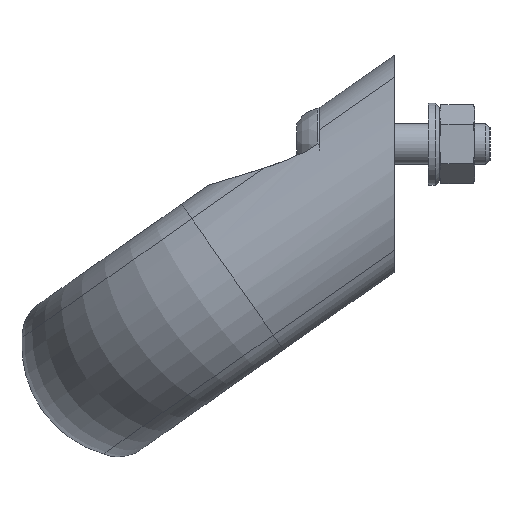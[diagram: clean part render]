
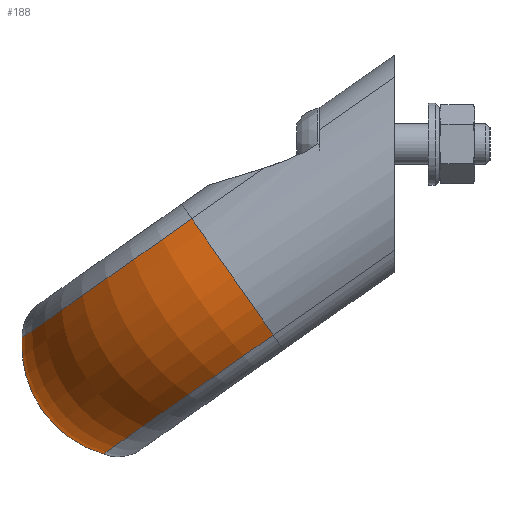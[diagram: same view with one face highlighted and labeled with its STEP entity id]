
A CAD part, left-side view. The second image highlights one B-rep face of the part: STEP entity #188.
In plain terms, the highlighted toroidal (fillet/blend) face has major radius 17.484 mm and minor radius 16.516 mm.
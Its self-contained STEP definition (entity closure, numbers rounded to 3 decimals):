
#188 = ADVANCED_FACE( '', ( #290 ), #291, .T. );
#290 = FACE_OUTER_BOUND( '', #501, .T. );
#291 = TOROIDAL_SURFACE( '', #502, 17.484, 16.516 );
#501 = EDGE_LOOP( '', ( #820, #821, #822, #823 ) );
#502 = AXIS2_PLACEMENT_3D( '', #824, #825, #826 );
#820 = ORIENTED_EDGE( '', *, *, #1421, .T. );
#821 = ORIENTED_EDGE( '', *, *, #1422, .F. );
#822 = ORIENTED_EDGE( '', *, *, #1423, .F. );
#823 = ORIENTED_EDGE( '', *, *, #1424, .T. );
#824 = CARTESIAN_POINT( '', ( -38.5, 23.653, -14.432 ) );
#825 = DIRECTION( '', ( 0., -0.574, -0.819 ) );
#826 = DIRECTION( '', ( 0., 0.819, -0.574 ) );
#1421 = EDGE_CURVE( '', #1624, #1625, #1626, .T. );
#1422 = EDGE_CURVE( '', #1627, #1625, #1628, .T. );
#1423 = EDGE_CURVE( '', #1629, #1627, #1630, .T. );
#1424 = EDGE_CURVE( '', #1629, #1624, #1631, .T. );
#1624 = VERTEX_POINT( '', #2032 );
#1625 = VERTEX_POINT( '', #2033 );
#1626 = CIRCLE( '', #2034, 30.334 );
#1627 = VERTEX_POINT( '', #2035 );
#1628 = CIRCLE( '', #2036, 16.516 );
#1629 = VERTEX_POINT( '', #2037 );
#1630 = CIRCLE( '', #2038, 30.334 );
#1631 = CIRCLE( '', #2039, 16.516 );
#2032 = CARTESIAN_POINT( '', ( -68.834, 29.605, -5.933 ) );
#2033 = CARTESIAN_POINT( '', ( -38.5, 54.453, -23.332 ) );
#2034 = AXIS2_PLACEMENT_3D( '', #2456, #2457, #2458 );
#2035 = CARTESIAN_POINT( '', ( -38.5, 42.55, -40.33 ) );
#2036 = AXIS2_PLACEMENT_3D( '', #2459, #2460, #2461 );
#2037 = CARTESIAN_POINT( '', ( -68.834, 17.702, -22.932 ) );
#2038 = AXIS2_PLACEMENT_3D( '', #2462, #2463, #2464 );
#2039 = AXIS2_PLACEMENT_3D( '', #2465, #2466, #2467 );
#2456 = CARTESIAN_POINT( '', ( -38.5, 29.605, -5.933 ) );
#2457 = DIRECTION( '', ( 0., -0.574, -0.819 ) );
#2458 = DIRECTION( '', ( 0., 0.819, -0.574 ) );
#2459 = CARTESIAN_POINT( '', ( -38.5, 37.976, -24.461 ) );
#2460 = DIRECTION( '', ( 1., 0., 0. ) );
#2461 = DIRECTION( '', ( 0., 0., -1. ) );
#2462 = CARTESIAN_POINT( '', ( -38.5, 17.702, -22.932 ) );
#2463 = DIRECTION( '', ( 0., -0.574, -0.819 ) );
#2464 = DIRECTION( '', ( 0., 0.819, -0.574 ) );
#2465 = CARTESIAN_POINT( '', ( -55.984, 23.653, -14.432 ) );
#2466 = DIRECTION( '', ( 0., 0.819, -0.574 ) );
#2467 = DIRECTION( '', ( -0.574, -0.47, -0.671 ) );
